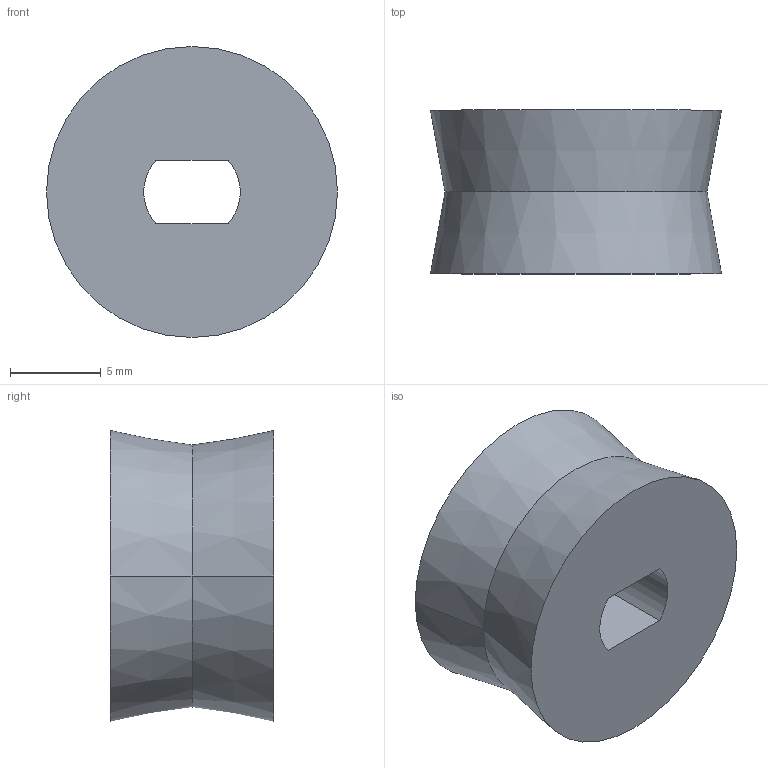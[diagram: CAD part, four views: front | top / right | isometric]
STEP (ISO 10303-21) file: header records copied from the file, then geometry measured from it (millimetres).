
FILE_DESCRIPTION((''),'2;1');
FILE_NAME('PRT0001','2016-10-19T',('Tim'),(''),'CREO PARAMETRIC BY PTC INC, 2015380','CREO PARAMETRIC BY PTC INC, 2015380','');
FILE_SCHEMA(('CONFIG_CONTROL_DESIGN'));
Length unit declared in the file: millimetre
Products named in the file (1): PRT0001
Bounding box: 16 x 9 x 16 mm (x, y, z)
Volume: 1482.1 mm3; surface area: 945 mm2
Topology: 1 solids, 1 shells, 10 faces, 22 edges, 14 vertices
Faces by surface type: plane 4, cone 4, cylinder 2
Entity records: 322 total; most frequent: DIRECTION 52, CARTESIAN_POINT 46, ORIENTED_EDGE 44, EDGE_CURVE 22, AXIS2_PLACEMENT_3D 20, VERTEX_POINT 14, VECTOR 12, LINE 12
